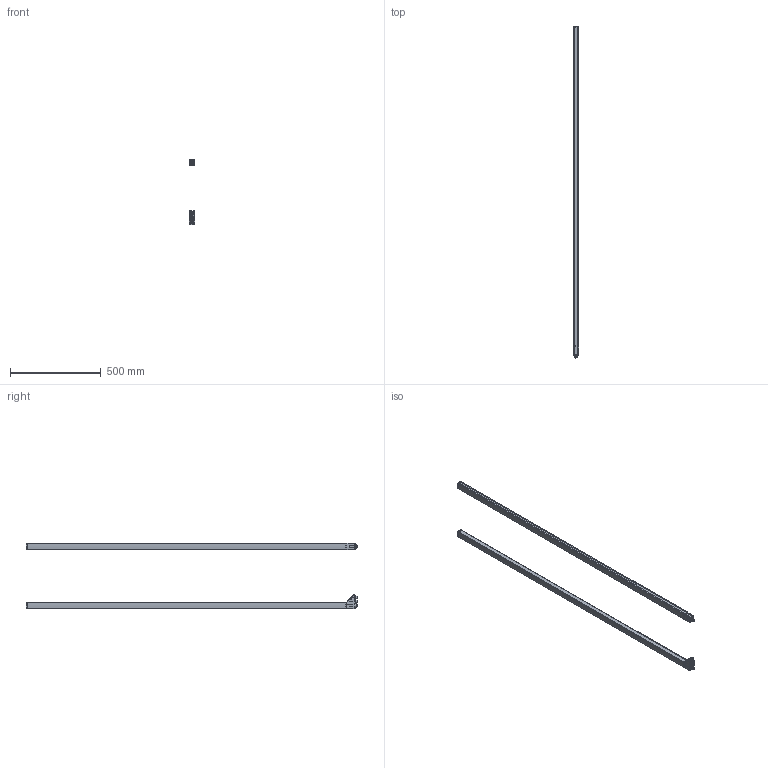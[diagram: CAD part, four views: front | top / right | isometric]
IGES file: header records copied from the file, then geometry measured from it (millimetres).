
Global section: file name: E:\lem\3DCAD_CML700i_PN_1760.igs; native system: NX V8.5; preprocessor: SIEMENS PLM Software NX 8.5; date: 20170919.120506; units: millimetre
Bounding box: 28.99 x 1832.8 x 361.11 mm (x, y, z)
Surface area: 572337.2 mm2 (no closed solid volume)
Topology: 0 solids, 0 shells, 2473 faces, 14638 edges, 14482 vertices
Faces by surface type: bspline 2473
